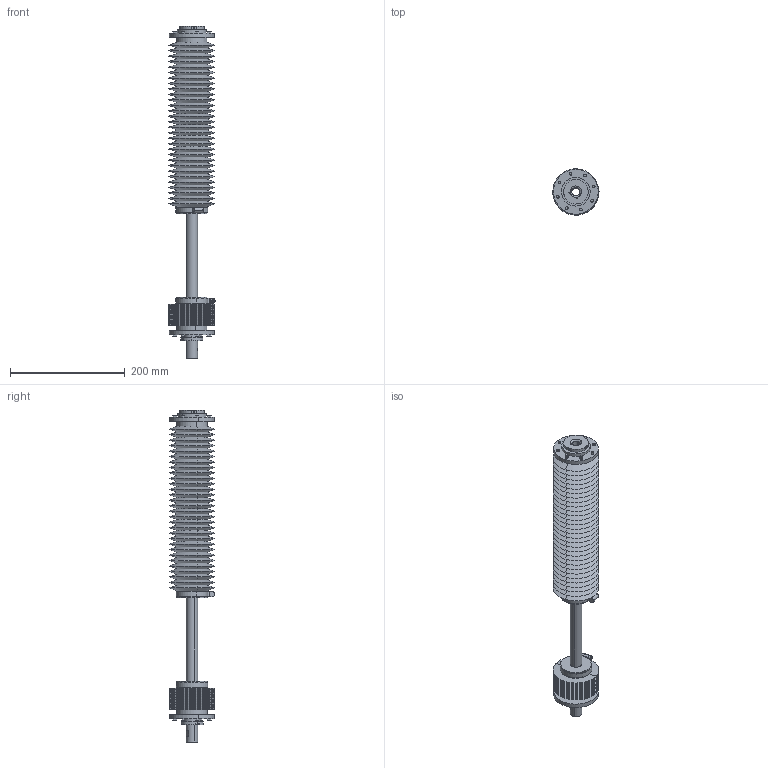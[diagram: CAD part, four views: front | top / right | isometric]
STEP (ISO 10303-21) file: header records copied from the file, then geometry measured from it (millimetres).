
FILE_DESCRIPTION (( 'STEP AP214' ), '1' );
FILE_NAME ('IRB920T_6kg-550-250-IP54CR-BTM_OmniCore_rev00_LINK3_CAD.step', '2021-10-28T02:21:20', ( '' ), ( '' ), 'SwSTEP 2.0', 'SolidWorks 2018', '' );
FILE_SCHEMA (( 'AUTOMOTIVE_DESIGN' ));
Length unit declared in the file: millimetre
Products named in the file (1): IRB920T_6kg-550-250-IP54CR-BTM_OmniCore_rev00_LINK3_CAD
Bounding box: 80.49 x 79.8 x 578 mm (x, y, z)
Volume: 1266164.8 mm3; surface area: 444681.8 mm2
Topology: 1 solids, 1 shells, 416 faces, 887 edges, 508 vertices
Faces by surface type: cone 244, cylinder 90, plane 80, torus 2
Entity records: 11400 total; most frequent: CARTESIAN_POINT 2163, DIRECTION 2125, ORIENTED_EDGE 1766, EDGE_CURVE 883, AXIS2_PLACEMENT_3D 837, VERTEX_POINT 508, EDGE_LOOP 457, VECTOR 451
